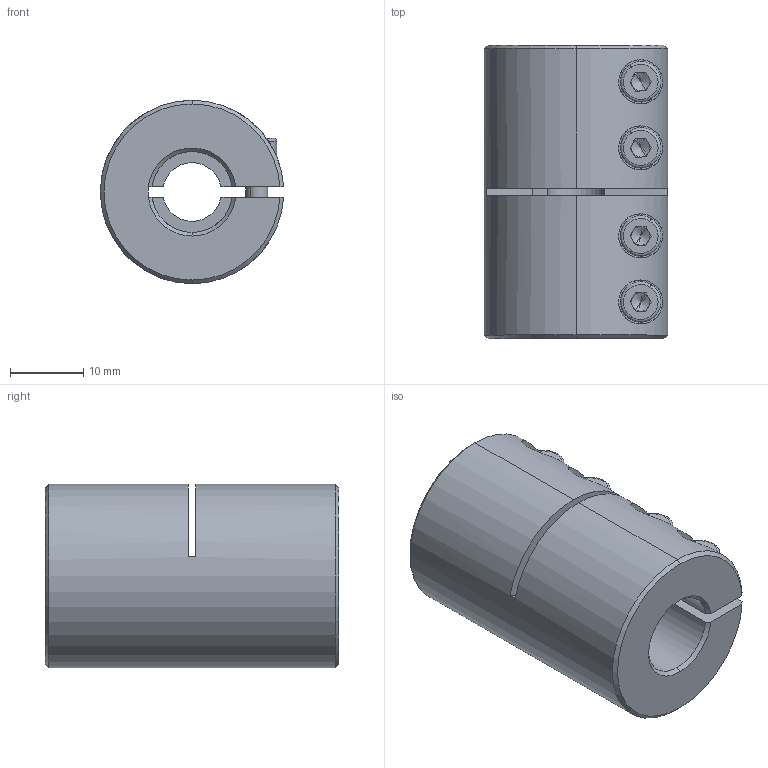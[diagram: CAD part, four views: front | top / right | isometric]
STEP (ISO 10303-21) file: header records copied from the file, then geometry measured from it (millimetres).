
FILE_DESCRIPTION (( 'STEP AP214' ), '1' );
FILE_NAME ('LL-B-D25L40-8-11½¨Ä£.STEP', '2022-07-21T05:17:12', ( '' ), ( '' ), 'SwSTEP 2.0', 'SolidWorks 2022', '' );
FILE_SCHEMA (( 'AUTOMOTIVE_DESIGN' ));
Length unit declared in the file: millimetre
Products named in the file (1): LL-B-D25L40-8-11膘耀
Bounding box: 24.98 x 40 x 25 mm (x, y, z)
Volume: 15720.3 mm3; surface area: 7160.1 mm2
Topology: 1 solids, 1 shells, 178 faces, 455 edges, 287 vertices
Faces by surface type: plane 85, cylinder 65, cone 20, torus 8
Entity records: 5838 total; most frequent: CARTESIAN_POINT 1437, DIRECTION 946, ORIENTED_EDGE 894, EDGE_CURVE 447, AXIS2_PLACEMENT_3D 364, VERTEX_POINT 287, LINE 218, VECTOR 218
